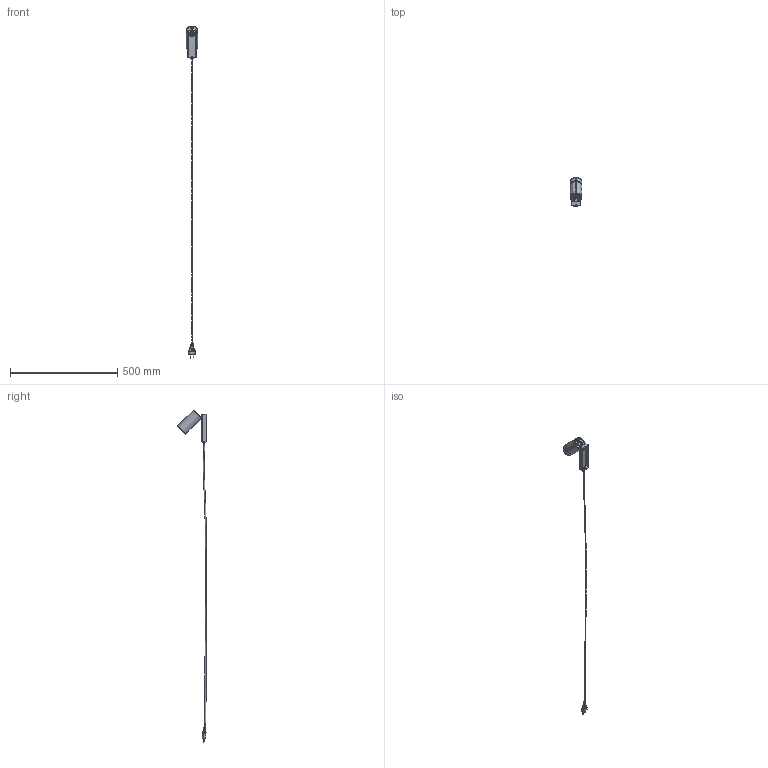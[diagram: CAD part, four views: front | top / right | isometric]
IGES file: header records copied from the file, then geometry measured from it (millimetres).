
Start section: SolidWorks IGES file using analytic representation for surfaces
Global section: file name: Z:\Modele 3D_WWW\_KOLEKCJE_WWW\MONO\MONO-BELKA\MONO-I-KINKIET-PRZEWÓD-7787-7786\MONO-I-KINKIET-PRZEWÓD-7787-7786.IGS; native system: SolidWorks 2021; preprocessor: SolidWorks 2021; author: gabriela.tworek; date: 210722.093557; units: millimetre
Bounding box: 55 x 135.87 x 1551.23 mm (x, y, z)
Surface area: 96847.5 mm2 (no closed solid volume)
Topology: 0 solids, 0 shells, 744 faces, 8065 edges, 8057 vertices
Faces by surface type: bspline 534, revolution 210
